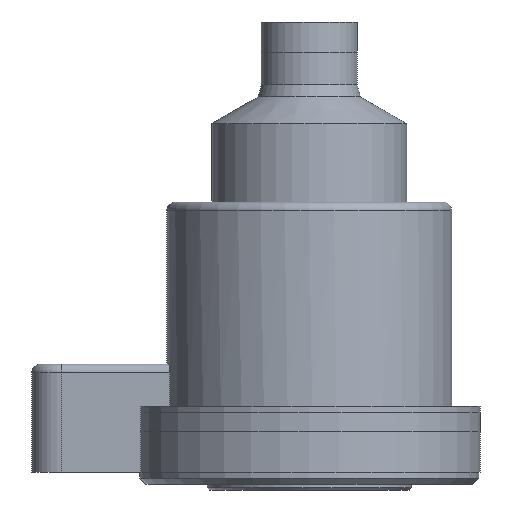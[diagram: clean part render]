
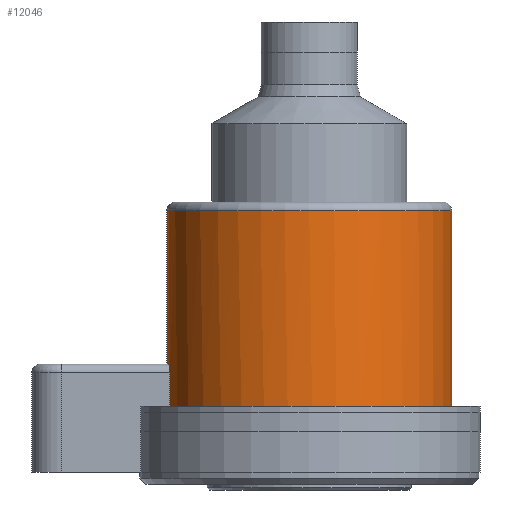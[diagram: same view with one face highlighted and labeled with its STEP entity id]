
A CAD part, front view. The second image highlights one B-rep face of the part: STEP entity #12046.
In plain terms, the highlighted cylindrical face has radius 47.5 mm (diameter 95 mm), a partial arc.
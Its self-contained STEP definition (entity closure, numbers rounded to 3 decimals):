
#52 = VECTOR ( 'NONE', #11971, 1000. ) ;
#268 = EDGE_LOOP ( 'NONE', ( #543, #647, #422, #655, #542, #373, #671 ) ) ;
#373 = ORIENTED_EDGE ( 'NONE', *, *, #1452, .F. ) ;
#422 = ORIENTED_EDGE ( 'NONE', *, *, #1333, .T. ) ;
#542 = ORIENTED_EDGE ( 'NONE', *, *, #1427, .F. ) ;
#543 = ORIENTED_EDGE ( 'NONE', *, *, #1319, .F. ) ;
#647 = ORIENTED_EDGE ( 'NONE', *, *, #1454, .T. ) ;
#655 = ORIENTED_EDGE ( 'NONE', *, *, #1434, .F. ) ;
#671 = ORIENTED_EDGE ( 'NONE', *, *, #1446, .T. ) ;
#897 = LINE ( 'NONE', #11976, #52 ) ;
#920 = LINE ( 'NONE', #11691, #958 ) ;
#949 = CIRCLE ( 'NONE', #1363, 47.5 ) ;
#950 = VECTOR ( 'NONE', #11141, 1000. ) ;
#951 = LINE ( 'NONE', #11247, #950 ) ;
#958 = VECTOR ( 'NONE', #11690, 1000. ) ;
#961 = CIRCLE ( 'NONE', #1366, 47.5 ) ;
#977 = CIRCLE ( 'NONE', #1367, 47.5 ) ;
#1319 = EDGE_CURVE ( 'NONE', #11351, #11508, #920, .T. ) ;
#1333 = EDGE_CURVE ( 'NONE', #11743, #11865, #897, .T. ) ;
#1363 = AXIS2_PLACEMENT_3D ( 'NONE', #11238, #11239, #11240 ) ;
#1366 = AXIS2_PLACEMENT_3D ( 'NONE', #11144, #11142, #11140 ) ;
#1367 = AXIS2_PLACEMENT_3D ( 'NONE', #11202, #11203, #11204 ) ;
#1427 = EDGE_CURVE ( 'NONE', #11892, #11774, #13465, .T. ) ;
#1434 = EDGE_CURVE ( 'NONE', #11774, #11865, #977, .T. ) ;
#1446 = EDGE_CURVE ( 'NONE', #11952, #11508, #961, .T. ) ;
#1452 = EDGE_CURVE ( 'NONE', #11952, #11892, #951, .T. ) ;
#1454 = EDGE_CURVE ( 'NONE', #11351, #11743, #949, .T. ) ;
#3874 = DIRECTION ( 'NONE',  ( -1., 0., 0. ) ) ;
#3875 = DIRECTION ( 'NONE',  ( 0., 0., -1. ) ) ;
#3877 = CARTESIAN_POINT ( 'NONE',  ( 0., 0., 0. ) ) ;
#6002 = CYLINDRICAL_SURFACE ( 'NONE', #6695, 47.5 ) ;
#6018 = FACE_OUTER_BOUND ( 'NONE', #268, .T. ) ;
#6695 = AXIS2_PLACEMENT_3D ( 'NONE', #3877, #3875, #3874 ) ;
#7552 = CARTESIAN_POINT ( 'NONE',  ( -46.435, -10., 28. ) ) ;
#7594 = CARTESIAN_POINT ( 'NONE',  ( -46.435, -10., 39. ) ) ;
#7625 = CARTESIAN_POINT ( 'NONE',  ( -47.5, 0., 42. ) ) ;
#7705 = CARTESIAN_POINT ( 'NONE',  ( -46.981, -7., 42. ) ) ;
#7729 = CARTESIAN_POINT ( 'NONE',  ( -47.5, 0., 93. ) ) ;
#7845 = CARTESIAN_POINT ( 'NONE',  ( 47.5, 0., 28. ) ) ;
#7984 = CARTESIAN_POINT ( 'NONE',  ( 47.5, 0., 93. ) ) ;
#11039 = CARTESIAN_POINT ( 'NONE',  ( -46.734, -8.497, 41.607 ) ) ;
#11041 = CARTESIAN_POINT ( 'NONE',  ( -46.644, -8.976, 41.265 ) ) ;
#11043 = CARTESIAN_POINT ( 'NONE',  ( -46.565, -9.379, 40.839 ) ) ;
#11054 = CARTESIAN_POINT ( 'NONE',  ( -46.501, -9.693, 40.336 ) ) ;
#11055 = CARTESIAN_POINT ( 'NONE',  ( -46.469, -9.844, 39.974 ) ) ;
#11056 = CARTESIAN_POINT ( 'NONE',  ( -46.86, -7.773, 41.905 ) ) ;
#11057 = CARTESIAN_POINT ( 'NONE',  ( -46.765, -8.325, 41.699 ) ) ;
#11061 = CARTESIAN_POINT ( 'NONE',  ( -46.435, -10., 39. ) ) ;
#11062 = CARTESIAN_POINT ( 'NONE',  ( -46.435, -10., 39.197 ) ) ;
#11063 = CARTESIAN_POINT ( 'NONE',  ( -46.44, -9.981, 39.393 ) ) ;
#11140 = DIRECTION ( 'NONE',  ( -1., 0., 0. ) ) ;
#11141 = DIRECTION ( 'NONE',  ( 0., 0., 1. ) ) ;
#11142 = DIRECTION ( 'NONE',  ( 0., 0., 1. ) ) ;
#11144 = CARTESIAN_POINT ( 'NONE',  ( 0., 0., 28. ) ) ;
#11160 = CARTESIAN_POINT ( 'NONE',  ( -46.456, -9.903, 39.783 ) ) ;
#11201 = CARTESIAN_POINT ( 'NONE',  ( -46.674, -8.822, 41.391 ) ) ;
#11202 = CARTESIAN_POINT ( 'NONE',  ( 0., 0., 42. ) ) ;
#11203 = DIRECTION ( 'NONE',  ( 0., 0., -1. ) ) ;
#11204 = DIRECTION ( 'NONE',  ( 1., 0., 0. ) ) ;
#11209 = CARTESIAN_POINT ( 'NONE',  ( -46.59, -9.254, 40.99 ) ) ;
#11210 = CARTESIAN_POINT ( 'NONE',  ( -46.981, -7., 42. ) ) ;
#11211 = CARTESIAN_POINT ( 'NONE',  ( -46.952, -7.198, 42. ) ) ;
#11212 = CARTESIAN_POINT ( 'NONE',  ( -46.922, -7.392, 41.981 ) ) ;
#11238 = CARTESIAN_POINT ( 'NONE',  ( 0., 0., 93. ) ) ;
#11239 = DIRECTION ( 'NONE',  ( 0., 0., -1. ) ) ;
#11240 = DIRECTION ( 'NONE',  ( -1., 0., 0. ) ) ;
#11247 = CARTESIAN_POINT ( 'NONE',  ( -46.435, -10., 0. ) ) ;
#11274 = CARTESIAN_POINT ( 'NONE',  ( -46.828, -7.963, 41.848 ) ) ;
#11276 = CARTESIAN_POINT ( 'NONE',  ( -46.52, -9.599, 40.511 ) ) ;
#11351 = VERTEX_POINT ( 'NONE', #7984 ) ;
#11508 = VERTEX_POINT ( 'NONE', #7845 ) ;
#11690 = DIRECTION ( 'NONE',  ( 0., 0., -1. ) ) ;
#11691 = CARTESIAN_POINT ( 'NONE',  ( 47.5, 0., 0. ) ) ;
#11743 = VERTEX_POINT ( 'NONE', #7729 ) ;
#11774 = VERTEX_POINT ( 'NONE', #7705 ) ;
#11865 = VERTEX_POINT ( 'NONE', #7625 ) ;
#11892 = VERTEX_POINT ( 'NONE', #7594 ) ;
#11952 = VERTEX_POINT ( 'NONE', #7552 ) ;
#11971 = DIRECTION ( 'NONE',  ( 0., 0., -1. ) ) ;
#11976 = CARTESIAN_POINT ( 'NONE',  ( -47.5, 0., 0. ) ) ;
#12046 = ADVANCED_FACE ( 'NONE', ( #6018 ), #6002, .T. ) ;
#13465 = B_SPLINE_CURVE_WITH_KNOTS ( 'NONE', 3,
 ( #11061, #11062, #11063, #11160, #11055, #11054, #11276, #11043, #11209, #11041, #11201, #11039, #11057, #11274, #11056, #11212, #11211, #11210 ),
 .UNSPECIFIED., .F., .F.,
 ( 4, 2, 2, 2, 2, 2, 2, 2, 4 ),
 ( 0.009, 0.01, 0.011, 0.011, 0.012, 0.012, 0.013, 0.014, 0.014 ),
 .UNSPECIFIED. ) ;
